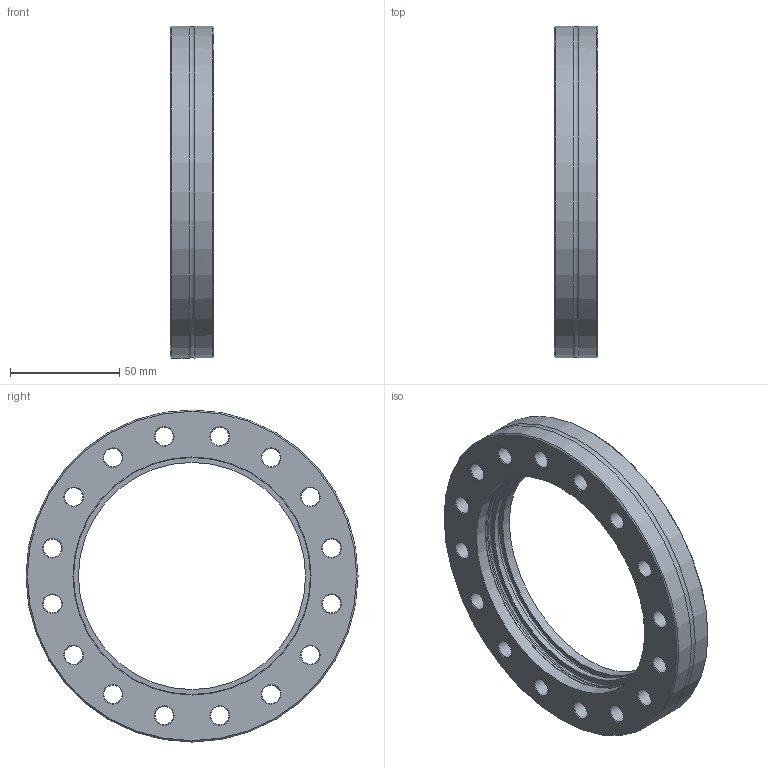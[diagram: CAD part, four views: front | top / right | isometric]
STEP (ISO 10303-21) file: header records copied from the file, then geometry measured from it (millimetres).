
FILE_DESCRIPTION((''),'2;1');
FILE_NAME('W:\13785_CF_Global_Fit_Umsetzung\067_Welding_Flange_Rotable\M213-144.stp','2010-09-01T11:00:51',('KAA'),(''),'Autodesk Inventor 2011','Autodesk Inventor 2011','');
FILE_SCHEMA(('AUTOMOTIVE_DESIGN { 1 0 10303 214 1 1 1 1 }'));
Length unit declared in the file: millimetre
Products named in the file (1): 213-144
Bounding box: 20 x 152 x 152 mm (x, y, z)
Volume: 160939.3 mm3; surface area: 53885 mm2
Topology: 1 solids, 1 shells, 167 faces, 428 edges, 277 vertices
Faces by surface type: plane 54, cone 39, cylinder 35, bspline 35, torus 4
Full cylindrical faces by diameter (mm): 8.4 x16, 104 x2, 108.5 x2, 109 x1, 120.4 x1, 120.6 x1, 152 x2
Entity records: 13886 total; most frequent: CARTESIAN_POINT 10292, ORIENTED_EDGE 688, DIRECTION 608, EDGE_CURVE 344, EDGE_LOOP 281, VERTEX_POINT 259, AXIS2_PLACEMENT_3D 250, FACE_OUTER_BOUND 167
